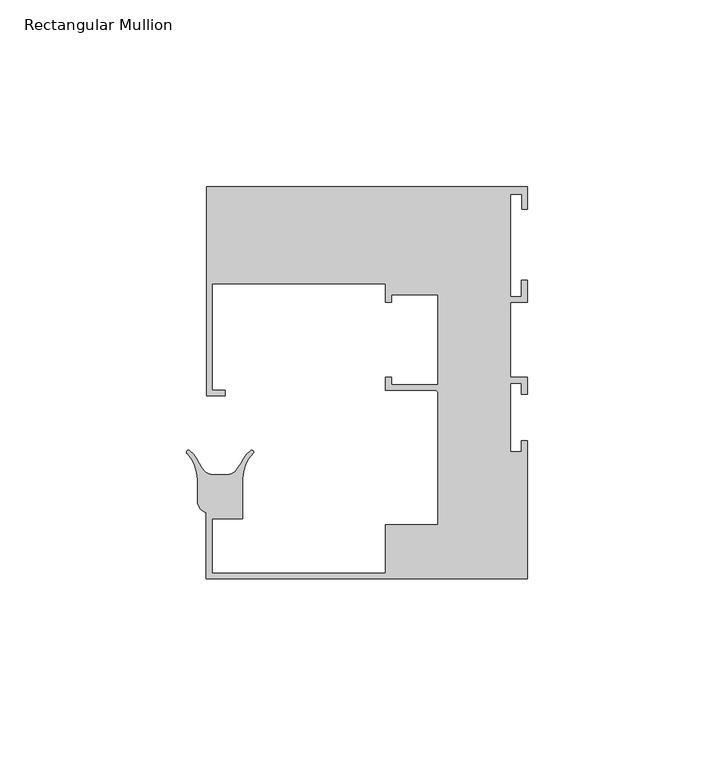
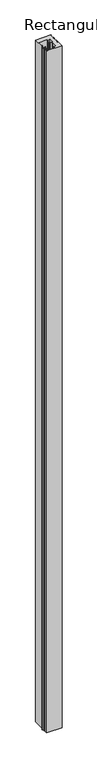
"""IFC4 building model written with IfcOpenShell, lengths in millimetres: member geometry, Rectangular Mullion : Danpal_Airpt_End-Mullion_B2."""

from ifc_helpers import new_model, si_unit, point, frame, frame_2d, origin, place, context, project, spatial, polyline, circle_curve, trimmed, segment, composite_curve, outline, extrude, source, transform, mapped, element, save


def rectangular_mullion_e72b580c(model_context):
    return source(origin(), model_context, "Body", "SweptSolid", [
        extrude(outline(composite_curve([segment(polyline([(-84.5, 44.249979), (-84.5, 15.7500001), (-81.0, 15.7500001), (-81.0, 14.2500001), (-86.0, 14.2500001), (-86.0, 70.2500001), (0.0, 70.2500001), (0.0, 64.2500001), (-1.5, 64.2500001), (-1.5, 68.2500001), (-4.5, 68.2500001), (-4.5, 40.7500001), (-1.5180937, 40.7500001), (-1.5180937, 45.2500001), (-0.0180937, 45.2500001), (-0.0180937, 39.2500001), (-4.5, 39.2500001), (-4.5, 19.25), (-0.0180922, 19.25), (-0.0180922, 14.65), (-1.5180922, 14.65), (-1.5180922, 17.65), (-4.5180922, 17.65), (-4.5180922, -0.75), (-1.5180922, -0.75), (-1.5180922, 2.25), (-0.0180922, 2.25), (-0.0180922, -34.75), (-86.0180914, -34.75), (-86.0180914, -17.0365625)]), True, "CONTINUOUS"), segment(trimmed(circle_curve(frame_2d((-85.366716, -14.1081309)), 3.0000002), [point((-86.0180914, -17.0365625))], [point((-88.3666989, -14.1183419))], False, "CARTESIAN"), True, "CONTINUOUS"), segment(polyline([(-88.3666989, -14.1183419), (-88.3666989, -8.1181379)]), True, "CONTINUOUS"), segment(trimmed(circle_curve(frame_2d((-98.3666403, -8.1523787)), 10.0), [point((-88.3666989, -8.1181379))], [point((-91.1789286, -1.1999114))], True, "CARTESIAN"), True, "CONTINUOUS"), segment(trimmed(circle_curve(frame_2d((-90.8194227, -0.8521716)), 0.5001675), [point((-91.1789286, -1.1999114))], [point((-90.4970116, -0.4697862))], False, "CARTESIAN"), True, "CONTINUOUS"), segment(trimmed(circle_curve(frame_2d((-96.9430732, -8.114934)), 9.9999998), [point((-90.4970116, -0.4697862))], [point((-87.9289412, -3.785336))], False, "CARTESIAN"), True, "CONTINUOUS"), segment(trimmed(circle_curve(frame_2d((-78.9148092, 0.544262)), 9.9999997), [point((-87.9289412, -3.785336))], [point((-86.6990305, -5.7331494))], True, "CARTESIAN"), True, "CONTINUOUS"), segment(trimmed(circle_curve(frame_2d((-84.363764, -3.8499259)), 3.0), [point((-86.6990305, -5.7331494))], [point((-84.363764, -6.8499259))], True, "CARTESIAN"), True, "CONTINUOUS"), segment(polyline([(-84.363764, -6.8499259), (-80.32512, -6.8499259)]), True, "CONTINUOUS"), segment(trimmed(circle_curve(frame_2d((-80.32512, -3.8499259)), 3.0), [point((-80.32512, -6.8499259))], [point((-77.9898528, -5.7331484))], True, "CARTESIAN"), True, "CONTINUOUS"), segment(trimmed(circle_curve(frame_2d((-85.7740768, 0.5442599)), 10.0), [point((-77.9898528, -5.7331484))], [point((-76.759944, -3.7853369))], True, "CARTESIAN"), True, "CONTINUOUS"), segment(trimmed(circle_curve(frame_2d((-67.7458114, -8.1149337)), 9.9999997), [point((-76.759944, -3.7853369))], [point((-74.1944462, -0.4719563))], False, "CARTESIAN"), True, "CONTINUOUS"), segment(trimmed(circle_curve(frame_2d((-73.8718016, -0.8543575)), 0.5003301), [point((-74.1944462, -0.4719563))], [point((-73.5120728, -1.2021009))], False, "CARTESIAN"), True, "CONTINUOUS"), segment(trimmed(circle_curve(frame_2d((-66.322244, -8.1523787)), 10.0), [point((-73.5120728, -1.2021009))], [point((-76.3180945, -7.8643287))], True, "CARTESIAN"), True, "CONTINUOUS"), segment(polyline([(-76.3180945, -7.8643287), (-76.3180945, -18.6499969), (-84.5180945, -18.6499969), (-84.5180945, -33.2499969), (-38.0180899, -33.2499969), (-38.0180899, -20.2499969), (-23.9180899, -20.2499969), (-23.9180899, 14.698377)]), True, "CONTINUOUS"), segment(trimmed(circle_curve(frame_2d((-24.969716, 14.698377)), 1.0516261), [point((-23.9180899, 14.698377))], [point((-24.969716, 15.7500031))], True, "CARTESIAN"), True, "CONTINUOUS"), segment(polyline([(-24.969716, 15.7500031), (-38.0180899, 15.7500031), (-38.0180899, 19.2500031), (-36.4180899, 19.2500031), (-36.4180899, 17.2500031), (-23.9180899, 17.2500031), (-23.9180899, 41.2500001), (-36.4, 41.2500001), (-36.4, 39.2500001), (-38.0, 39.2500001), (-38.0, 44.249979), (-84.5, 44.249979)]), True, "CONTINUOUS")], self_intersect=False)), frame((0.0, 0.0, -4000.0), z_axis=(0.0, 0.0, 1.0), x_axis=(1.0, 0.0, 0.0)), (0.0, 0.0, 1.0), 4000.0),
    ])


if __name__ == "__main__":
    model = new_model("IFC4")
    model_context = context("Model", 3, world=origin())
    ifc_project = project(units=[si_unit("LENGTHUNIT", "METRE", prefix="MILLI")], contexts=[model_context])
    site = spatial("IfcSite", under=ifc_project)
    building = spatial("IfcBuilding", under=site)
    placement = place(None, origin())
    rectangular_mullion_shape = rectangular_mullion_e72b580c(model_context)
    element("IfcMember", 1, ObjectType="Rectangular Mullion : Danpal_Airpt_End-Mullion_B2", at=placement, inside=building, context=model_context, shape_type="MappedRepresentation", body=[
        mapped(rectangular_mullion_shape, transform((0.0, 0.0, 0.0), x_axis=(1.0, 0.0, 0.0), y_axis=(0.0, 1.0, 0.0), z_axis=(0.0, 0.0, 1.0))),
    ])
    save(model, "model.ifc")
